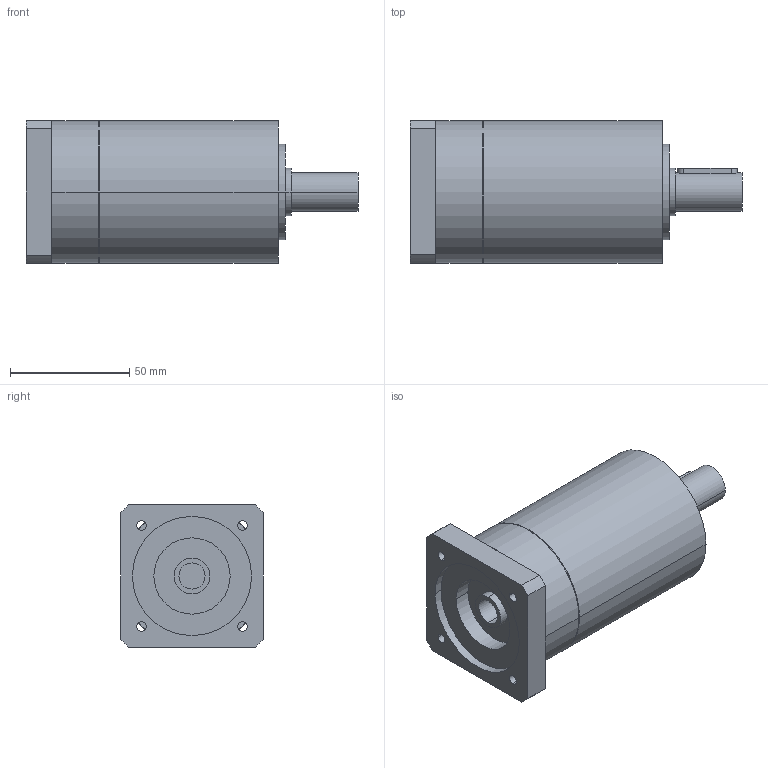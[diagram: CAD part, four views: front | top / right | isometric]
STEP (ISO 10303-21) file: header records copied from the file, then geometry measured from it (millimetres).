
FILE_DESCRIPTION(('CoCreate Modeling STEP Export'),'2;1');
FILE_NAME('GPR75_ig-9-12-16-20-24-30-36_16_B14_11_P18.stp','2014-08-25T16:01:47',(''),(''),'CoCreate Modeling STEP processor for AP214 (Solid Model)','CoCreate Modeling 16.00C 25-Feb-2009 (C) Parametric Technology GmbH','');
FILE_SCHEMA(('AUTOMOTIVE_DESIGN { 1 0 10303 214 1 1 1 1 }'));
Length unit declared in the file: millimetre
Products named in the file (2): GPR75_ig-9-12-16-20-24-30-36_16_B14_11_P18
Assembly tree (1 placements, depth 2):
  GPR75_ig-9-12-16-20-24-30-36_16_B14_11_P18
    GPR75_ig-9-12-16-20-24-30-36_16_B14_11_P18
Bounding box: 139.4 x 60 x 60 mm (x, y, z)
Volume: 302559.9 mm3; surface area: 33181.1 mm2
Topology: 1 solids, 1 shells, 74 faces, 201 edges, 137 vertices
Faces by surface type: cylinder 42, plane 26, cone 6
Entity records: 2022 total; most frequent: ORIENTED_EDGE 398, CARTESIAN_POINT 371, DIRECTION 274, EDGE_CURVE 199, VERTEX_POINT 137, AXIS2_PLACEMENT_3D 104, EDGE_LOOP 92, FACE_OUTER_BOUND 74
